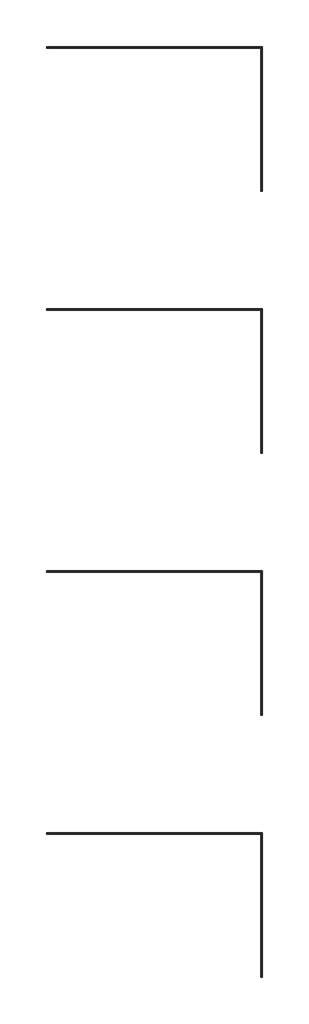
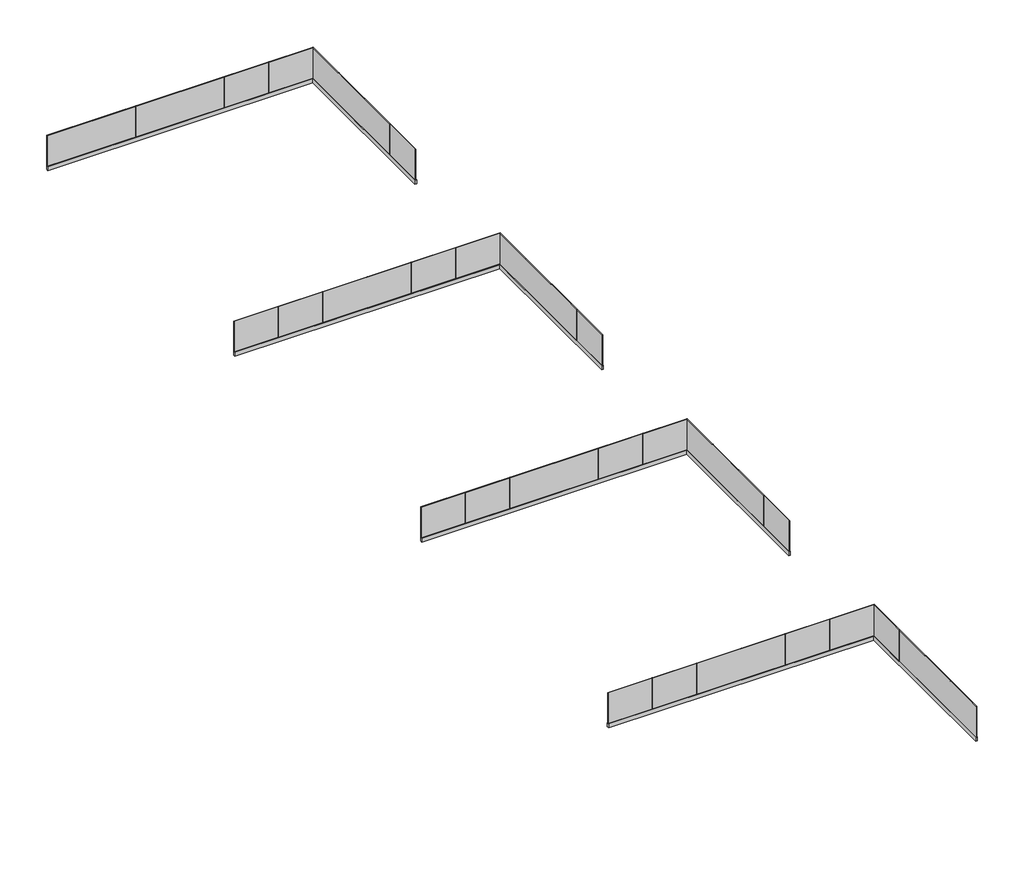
# One storey: 4 railings.
"""IFC4 building model written with IfcOpenShell, lengths in millimetres."""

import ifcopenshell
import ifcopenshell.guid

model = None  # the IFC model being written
_history = None  # IfcOwnerHistory: only IFC2X3 demands one
_inside = {}  # id of a spatial element -> (the spatial element, [elements in it])
_under = {}  # id of a project, library or spatial element -> (it, [spatial elements below it])
_declared = {}  # id of a project -> (the project, [libraries it declares])
_typed = {}  # id of a type object -> (the type object, [elements of that type])
_made_of = {}  # id of a material, layer set ... -> (it, [elements and type objects made of it])


def new_model(schema):
    """Start an empty IFC model of exactly this schema.

    Asked for "IFC4X3", IfcOpenShell would pick the latest addendum, in which some entities
    have other attributes; the version numbers below select the first issue.
    IFC2X3 requires an IfcOwnerHistory on every rooted entity: one is made here for all.
    """
    global model, _history
    if schema == "IFC4X3":
        model = ifcopenshell.file(schema_version=(4, 3, 0, 0))
    else:
        model = ifcopenshell.file(schema=schema)
    _inside.clear()
    _under.clear()
    _declared.clear()
    _typed.clear()
    _made_of.clear()
    _history = None
    if model.schema == "IFC2X3":
        org = make("IfcOrganization", Name="unknown")
        user = make(
            "IfcPersonAndOrganization",
            ThePerson=make("IfcPerson", FamilyName="unknown"),
            TheOrganization=org,
        )
        app = make(
            "IfcApplication",
            ApplicationDeveloper=org,
            Version="unknown",
            ApplicationFullName="unknown",
            ApplicationIdentifier="unknown",
        )
        _history = make(
            "IfcOwnerHistory",
            OwningUser=user,
            OwningApplication=app,
            ChangeAction="ADDED",
            CreationDate=0,
        )
    return model


def make(cls, **values):
    """One entity of the class cls with the attributes given. An attribute that is None is left unset."""
    return model.create_entity(
        cls, **{name: value for name, value in values.items() if value is not None}
    )


def rooted(cls, **values):
    """An entity with a GlobalId (a new one), such as an element, a storey or a relation."""
    return make(cls, GlobalId=ifcopenshell.guid.new(), OwnerHistory=_history, **values)


def si_unit(unit_type, name, prefix=None):
    """IfcSIUnit, for example si_unit("LENGTHUNIT", "METRE", prefix="MILLI")."""
    return make("IfcSIUnit", UnitType=unit_type, Prefix=prefix, Name=name)


def assignment(units):
    """IfcUnitAssignment: the units of a project."""
    return None if units is None else make("IfcUnitAssignment", Units=units)


def point(xyz):
    """IfcCartesianPoint."""
    return None if xyz is None else make("IfcCartesianPoint", Coordinates=xyz)


def direction(xyz):
    """IfcDirection."""
    return None if xyz is None else make("IfcDirection", DirectionRatios=xyz)


def frame(location, z_axis=None, x_axis=None):
    """IfcAxis2Placement3D, a coordinate frame: its origin and axes. An axis left out is left unset."""
    return make(
        "IfcAxis2Placement3D",
        Location=point(location),
        Axis=direction(z_axis),
        RefDirection=direction(x_axis),
    )


def origin():
    """The frame at (0, 0, 0) with its axes left unset."""
    return frame((0.0, 0.0, 0.0))


def origin_with_axes():
    """The frame at (0, 0, 0) with the z axis (0, 0, 1) and the x axis (1, 0, 0) written out."""
    return frame((0.0, 0.0, 0.0), z_axis=(0.0, 0.0, 1.0), x_axis=(1.0, 0.0, 0.0))


def place(relative_to, where):
    """IfcLocalPlacement: puts the frame where relative to a parent placement (None: the world)."""
    return make(
        "IfcLocalPlacement", PlacementRelTo=relative_to, RelativePlacement=where
    )


def context(
    kind, dimensions, precision=None, world=None, true_north=None, identifier=None
):
    """IfcGeometricRepresentationContext, for example the 3D "Model" context."""
    return make(
        "IfcGeometricRepresentationContext",
        ContextIdentifier=identifier,
        ContextType=kind,
        CoordinateSpaceDimension=dimensions,
        Precision=precision,
        WorldCoordinateSystem=world,
        TrueNorth=true_north,
    )


def project(units=None, contexts=None):
    """IfcProject with its units and contexts."""
    return rooted(
        "IfcProject",
        Name="project",
        RepresentationContexts=contexts,
        UnitsInContext=assignment(units),
    )


def spatial(cls, under=None, at=None, **own):
    """A site, building, storey or space (cls), placed at a placement, below another one or the project."""
    s = rooted(cls, ObjectPlacement=at, **own)
    if under is not None:
        _under.setdefault(under.id(), (under, []))[1].append(s)
    return s


def polyline(points):
    """IfcPolyline through the points."""
    return make("IfcPolyline", Points=[point(p) for p in points])


def outline(outer, holes=None, kind="AREA"):
    """IfcArbitraryClosedProfileDef: a profile drawn as a closed curve; with holes, ...WithVoids."""
    if holes is None:
        return make("IfcArbitraryClosedProfileDef", ProfileType=kind, OuterCurve=outer)
    return make(
        "IfcArbitraryProfileDefWithVoids",
        ProfileType=kind,
        OuterCurve=outer,
        InnerCurves=holes,
    )


def extrude(swept, where, along, depth):
    """IfcExtrudedAreaSolid: the profile swept, set in the frame where, extruded along a direction by depth."""
    return make(
        "IfcExtrudedAreaSolid",
        SweptArea=swept,
        Position=where,
        ExtrudedDirection=direction(along),
        Depth=depth,
    )


def faces_of(points, faces, orient=None, outer=None):
    """IfcFace entities. A face is a list of loops; a loop is a list of indices into points, from 0.

    orient and outer hold one flag for each loop. By default every Orientation is true, the
    first loop of a face is its IfcFaceOuterBound and the others are IfcFaceBound.
    """
    made = []
    for i, loops in enumerate(faces):
        bounds = []
        for j, loop in enumerate(loops):
            is_outer = j == 0 if outer is None else outer[i][j]
            bounds.append(
                make(
                    "IfcFaceOuterBound" if is_outer else "IfcFaceBound",
                    Bound=make("IfcPolyLoop", Polygon=[points[k] for k in loop]),
                    Orientation=True if orient is None else orient[i][j],
                )
            )
        made.append(make("IfcFace", Bounds=bounds))
    return made


def faceted_brep(points, faces, orient=None, outer=None, voids=None):
    """IfcFacetedBrep: a solid bounded by flat faces; with voids (closed shells), ...WithVoids."""
    shared = [point(p) for p in points]
    hull = make("IfcClosedShell", CfsFaces=faces_of(shared, faces, orient, outer))
    if voids is None:
        return make("IfcFacetedBrep", Outer=hull)
    return make(
        "IfcFacetedBrepWithVoids",
        Outer=hull,
        Voids=[
            make(cls, CfsFaces=faces_of(shared, fs, o, b)) for cls, fs, o, b in voids
        ],
    )


def shape(context_of_items, identifier, shape_type, items):
    """IfcShapeRepresentation: the items that make up one representation, for example the "Body"."""
    return make(
        "IfcShapeRepresentation",
        ContextOfItems=context_of_items,
        RepresentationIdentifier=identifier,
        RepresentationType=shape_type,
        Items=items,
    )


def made_of(thing, what):
    """Note that an element or type object is made of a material, layer set ...; save() writes the relation."""
    if what is not None:
        _made_of.setdefault(what.id(), (what, []))[1].append(thing)
    return thing


def element(
    cls,
    number,
    at=None,
    inside=None,
    cuts=None,
    type_object=None,
    material=None,
    context=None,
    identifier="Body",
    shape_type=None,
    held_by="IfcProductDefinitionShape",
    body=None,
    shapes=None,
    **own,
):
    """One element of the class cls, such as IfcWall. Its Tag is "e" and its number.

    at: its placement. inside: the storey or other place that contains it. cuts: it is an
    opening in that element (IfcRelVoidsElement). A single representation is given by context,
    identifier, shape_type and body (its items); several are given by shapes. held_by: the class
    of the entity that holds the representations. save() writes the other relations.
    """
    e = rooted(cls, Tag="e%d" % number, ObjectPlacement=at, **own)
    if body is not None:
        shapes = [shape(context, identifier, shape_type, body)]
    if shapes is not None:
        e.Representation = make(held_by, Representations=shapes)
    if inside is not None:
        _inside.setdefault(inside.id(), (inside, []))[1].append(e)
    if cuts is not None:
        rooted(
            "IfcRelVoidsElement", RelatingBuildingElement=cuts, RelatedOpeningElement=e
        )
    if type_object is not None:
        _typed.setdefault(type_object.id(), (type_object, []))[1].append(e)
    return made_of(e, material)


def aggregate(whole, parts):
    """IfcRelAggregates: a whole, such as a stair, and the parts it consists of."""
    return rooted("IfcRelAggregates", RelatingObject=whole, RelatedObjects=parts)


def save(model, path):
    """Write the relations noted so far, then the file.

    IfcRelAggregates (storeys below a building ...), IfcRelContainedInSpatialStructure (elements
    in a storey), IfcRelDefinesByType, IfcRelAssociatesMaterial and IfcRelDeclares: one each for
    every whole, place, type object, material and project.
    """
    for whole, parts in _under.values():
        aggregate(whole, parts)
    for where, things in _inside.values():
        rooted(
            "IfcRelContainedInSpatialStructure",
            RelatedElements=things,
            RelatingStructure=where,
        )
    for kind, things in _typed.values():
        rooted("IfcRelDefinesByType", RelatedObjects=things, RelatingType=kind)
    for what, things in _made_of.values():
        rooted("IfcRelAssociatesMaterial", RelatedObjects=things, RelatingMaterial=what)
    for by, libraries in _declared.values():
        rooted("IfcRelDeclares", RelatingContext=by, RelatedDefinitions=libraries)
    model.write(path)


model = new_model("IFC4")

# Units and contexts
model_context = context("Model", 3, world=origin())
ifc_project = project(units=[si_unit("LENGTHUNIT", "METRE", prefix="MILLI")], contexts=[model_context])

# Site, building, storey
site = spatial("IfcSite", under=ifc_project)
building = spatial("IfcBuilding", under=site)
storey = spatial("IfcBuildingStorey", under=building, Name="レベル 1", Elevation=0.0)

# Railings
placement = place(None, origin())
element("IfcRailing", 1, ObjectType="バラストレイド Proタイプ 壁付用 ガラス12mm", at=placement, inside=storey, context=model_context, shape_type="SolidModel", body=[
    faceted_brep([(-7272.0241721, 2641.437995, 1100.0), (-7272.0241721, 2641.437995, 0.0), (-7272.0241721, 2626.437995, 0.0), (-7272.0241721, 2626.437995, 1100.0), (1767.8758279, 2641.437995, 1100.0), (1767.8758279, 2641.437995, 0.0), (1752.8758279, 2626.437995, 0.0), (1752.8758279, 2626.437995, 1100.0), (1767.8758279, -3398.462005, 1100.0), (1752.8758279, -3398.462005, 1100.0), (1752.8758279, -3398.462005, 0.0), (1767.8758279, -3398.462005, 0.0)], [[[0, 1, 2, 3]], [[1, 0, 4, 5]], [[2, 1, 5, 6]], [[3, 2, 6, 7]], [[0, 3, 7, 4]], [[8, 9, 10, 11]], [[5, 4, 8, 11]], [[6, 5, 11, 10]], [[7, 6, 10, 9]], [[4, 7, 9, 8]]]),
    faceted_brep([(-7272.0241721, 2601.537995, 0.0), (-7272.0241721, 2666.337995, 0.0), (-7272.0241721, 2666.337995, -141.0), (-7272.0241721, 2601.537995, -141.0), (1727.9758279, 2601.537995, 0.0), (1792.7758279, 2666.337995, 0.0), (1792.7758279, 2666.337995, -141.0), (1727.9758279, 2601.537995, -141.0), (1727.9758279, -3398.462005, 0.0), (1727.9758279, -3398.462005, -141.0), (1792.7758279, -3398.462005, -141.0), (1792.7758279, -3398.462005, 0.0)], [[[0, 1, 2, 3]], [[1, 0, 4, 5]], [[3, 2, 6, 7]], [[0, 3, 7, 4]], [[8, 9, 10, 11]], [[5, 4, 8, 11]], [[7, 6, 10, 9]], [[4, 7, 9, 8]], [[2, 1, 5, 6]], [[6, 5, 11, 10]]]),
    extrude(outline(polyline([(1766.3758279, -1880.362005), (1766.3758279, -1900.362005), (1754.3758279, -1900.362005), (1754.3758279, -1880.362005), (1766.3758279, -1880.362005)])), origin_with_axes(), (0.0, 0.0, 1.0), 1100.0),
    extrude(outline(polyline([(1766.3758279, -372.262005), (1766.3758279, -392.262005), (1754.3758279, -392.262005), (1754.3758279, -372.262005), (1766.3758279, -372.262005)])), origin_with_axes(), (0.0, 0.0, 1.0), 1100.0),
    extrude(outline(polyline([(1766.3758279, 1135.837995), (1766.3758279, 1115.837995), (1754.3758279, 1115.837995), (1754.3758279, 1135.837995), (1766.3758279, 1135.837995)])), origin_with_axes(), (0.0, 0.0, 1.0), 1100.0),
    extrude(outline(polyline([(244.9758279, 2639.937995), (264.9758279, 2639.937995), (264.9758279, 2627.937995), (244.9758279, 2627.937995), (244.9758279, 2639.937995)])), origin_with_axes(), (0.0, 0.0, 1.0), 1100.0),
    extrude(outline(polyline([(-1260.4241721, 2639.937995), (-1240.4241721, 2639.937995), (-1240.4241721, 2627.937995), (-1260.4241721, 2627.937995), (-1260.4241721, 2639.937995)])), origin_with_axes(), (0.0, 0.0, 1.0), 1100.0),
    extrude(outline(polyline([(-2765.8241721, 2639.937995), (-2745.8241721, 2639.937995), (-2745.8241721, 2627.937995), (-2765.8241721, 2627.937995), (-2765.8241721, 2639.937995)])), origin_with_axes(), (0.0, 0.0, 1.0), 1100.0),
    extrude(outline(polyline([(-4271.2241721, 2639.937995), (-4251.2241721, 2639.937995), (-4251.2241721, 2627.937995), (-4271.2241721, 2627.937995), (-4271.2241721, 2639.937995)])), origin_with_axes(), (0.0, 0.0, 1.0), 1100.0),
    extrude(outline(polyline([(-5776.6241721, 2639.937995), (-5756.6241721, 2639.937995), (-5756.6241721, 2627.937995), (-5776.6241721, 2627.937995), (-5776.6241721, 2639.937995)])), origin_with_axes(), (0.0, 0.0, 1.0), 1100.0),
    extrude(outline(polyline([(1754.3758279, 2639.937995), (1766.3758279, 2639.937995), (1766.3758279, 2627.937995), (1754.3758279, 2627.937995), (1754.3758279, 2639.937995)])), origin_with_axes(), (0.0, 0.0, 1.0), 1100.0),
])
element("IfcRailing", 2, ObjectType="バラストレイド Proタイプ 壁付用 ガラス15mm", at=placement, inside=storey, context=model_context, shape_type="SolidModel", body=[
    faceted_brep([(-7272.0241721, -8358.562005, 1100.0), (-7272.0241721, -8358.562005, 0.0), (-7272.0241721, -8373.562005, 0.0), (-7272.0241721, -8373.562005, 1100.0), (1767.8758279, -8358.562005, 1100.0), (1767.8758279, -8358.562005, 0.0), (1752.8758279, -8373.562005, 0.0), (1752.8758279, -8373.562005, 1100.0), (1767.8758279, -14398.462005, 1100.0), (1752.8758279, -14398.462005, 1100.0), (1752.8758279, -14398.462005, 0.0), (1767.8758279, -14398.462005, 0.0)], [[[0, 1, 2, 3]], [[1, 0, 4, 5]], [[2, 1, 5, 6]], [[3, 2, 6, 7]], [[0, 3, 7, 4]], [[8, 9, 10, 11]], [[5, 4, 8, 11]], [[6, 5, 11, 10]], [[7, 6, 10, 9]], [[4, 7, 9, 8]]]),
    faceted_brep([(-7272.0241721, -8398.462005, 0.0), (-7272.0241721, -8333.662005, 0.0), (-7272.0241721, -8333.662005, -141.0), (-7272.0241721, -8398.462005, -141.0), (1727.9758279, -8398.462005, 0.0), (1792.7758279, -8333.662005, 0.0), (1792.7758279, -8333.662005, -141.0), (1727.9758279, -8398.462005, -141.0), (1727.9758279, -14398.462005, 0.0), (1727.9758279, -14398.462005, -141.0), (1792.7758279, -14398.462005, -141.0), (1792.7758279, -14398.462005, 0.0)], [[[0, 1, 2, 3]], [[1, 0, 4, 5]], [[3, 2, 6, 7]], [[0, 3, 7, 4]], [[8, 9, 10, 11]], [[5, 4, 8, 11]], [[7, 6, 10, 9]], [[4, 7, 9, 8]], [[2, 1, 5, 6]], [[6, 5, 11, 10]]]),
    extrude(outline(polyline([(1767.8758279, -12880.362005), (1767.8758279, -12900.362005), (1752.8758279, -12900.362005), (1752.8758279, -12880.362005), (1767.8758279, -12880.362005)])), origin_with_axes(), (0.0, 0.0, 1.0), 1100.0),
    extrude(outline(polyline([(1767.8758279, -11372.262005), (1767.8758279, -11392.262005), (1752.8758279, -11392.262005), (1752.8758279, -11372.262005), (1767.8758279, -11372.262005)])), origin_with_axes(), (0.0, 0.0, 1.0), 1100.0),
    extrude(outline(polyline([(1767.8758279, -9864.162005), (1767.8758279, -9884.162005), (1752.8758279, -9884.162005), (1752.8758279, -9864.162005), (1767.8758279, -9864.162005)])), origin_with_axes(), (0.0, 0.0, 1.0), 1100.0),
    extrude(outline(polyline([(244.9758279, -8358.562005), (264.9758279, -8358.562005), (264.9758279, -8373.562005), (244.9758279, -8373.562005), (244.9758279, -8358.562005)])), origin_with_axes(), (0.0, 0.0, 1.0), 1100.0),
    extrude(outline(polyline([(-1260.4241721, -8358.562005), (-1240.4241721, -8358.562005), (-1240.4241721, -8373.562005), (-1260.4241721, -8373.562005), (-1260.4241721, -8358.562005)])), origin_with_axes(), (0.0, 0.0, 1.0), 1100.0),
    extrude(outline(polyline([(-2765.8241721, -8358.562005), (-2745.8241721, -8358.562005), (-2745.8241721, -8373.562005), (-2765.8241721, -8373.562005), (-2765.8241721, -8358.562005)])), origin_with_axes(), (0.0, 0.0, 1.0), 1100.0),
    extrude(outline(polyline([(-4271.2241721, -8358.562005), (-4251.2241721, -8358.562005), (-4251.2241721, -8373.562005), (-4271.2241721, -8373.562005), (-4271.2241721, -8358.562005)])), origin_with_axes(), (0.0, 0.0, 1.0), 1100.0),
    extrude(outline(polyline([(-5776.6241721, -8358.562005), (-5756.6241721, -8358.562005), (-5756.6241721, -8373.562005), (-5776.6241721, -8373.562005), (-5776.6241721, -8358.562005)])), origin_with_axes(), (0.0, 0.0, 1.0), 1100.0),
    extrude(outline(polyline([(1752.8758279, -8358.562005), (1767.8758279, -8358.562005), (1767.8758279, -8373.562005), (1752.8758279, -8373.562005), (1752.8758279, -8358.562005)])), origin_with_axes(), (0.0, 0.0, 1.0), 1100.0),
])
element("IfcRailing", 3, ObjectType="バラストレイド Proタイプ 壁付用 ガラス8+8mm", at=placement, inside=storey, context=model_context, shape_type="SolidModel", body=[
    faceted_brep([(-7272.0241721, -19357.312005, 1100.0), (-7272.0241721, -19357.312005, 0.0), (-7272.0241721, -19374.812005, 0.0), (-7272.0241721, -19374.812005, 1100.0), (1769.1258279, -19357.312005, 1100.0), (1769.1258279, -19357.312005, 0.0), (1751.6258279, -19374.812005, 0.0), (1751.6258279, -19374.812005, 1100.0), (1769.1258279, -25398.462005, 1100.0), (1751.6258279, -25398.462005, 1100.0), (1751.6258279, -25398.462005, 0.0), (1769.1258279, -25398.462005, 0.0)], [[[0, 1, 2, 3]], [[1, 0, 4, 5]], [[2, 1, 5, 6]], [[3, 2, 6, 7]], [[0, 3, 7, 4]], [[8, 9, 10, 11]], [[5, 4, 8, 11]], [[6, 5, 11, 10]], [[7, 6, 10, 9]], [[4, 7, 9, 8]]]),
    faceted_brep([(-7272.0241721, -19398.462005, 0.0), (-7272.0241721, -19333.662005, 0.0), (-7272.0241721, -19333.662005, -141.0), (-7272.0241721, -19398.462005, -141.0), (1727.9758279, -19398.462005, 0.0), (1792.7758279, -19333.662005, 0.0), (1792.7758279, -19333.662005, -141.0), (1727.9758279, -19398.462005, -141.0), (1727.9758279, -25398.462005, 0.0), (1727.9758279, -25398.462005, -141.0), (1792.7758279, -25398.462005, -141.0), (1792.7758279, -25398.462005, 0.0)], [[[0, 1, 2, 3]], [[1, 0, 4, 5]], [[3, 2, 6, 7]], [[0, 3, 7, 4]], [[8, 9, 10, 11]], [[5, 4, 8, 11]], [[7, 6, 10, 9]], [[4, 7, 9, 8]], [[2, 1, 5, 6]], [[6, 5, 11, 10]]]),
    extrude(outline(polyline([(1769.1258279, -23880.362005), (1769.1258279, -23900.362005), (1751.6258279, -23900.362005), (1751.6258279, -23880.362005), (1769.1258279, -23880.362005)])), origin_with_axes(), (0.0, 0.0, 1.0), 1100.0),
    extrude(outline(polyline([(1769.1258279, -22372.262005), (1769.1258279, -22392.262005), (1751.6258279, -22392.262005), (1751.6258279, -22372.262005), (1769.1258279, -22372.262005)])), origin_with_axes(), (0.0, 0.0, 1.0), 1100.0),
    extrude(outline(polyline([(1769.1258279, -20864.162005), (1769.1258279, -20884.162005), (1751.6258279, -20884.162005), (1751.6258279, -20864.162005), (1769.1258279, -20864.162005)])), origin_with_axes(), (0.0, 0.0, 1.0), 1100.0),
    extrude(outline(polyline([(244.9758279, -19357.312005), (264.9758279, -19357.312005), (264.9758279, -19374.812005), (244.9758279, -19374.812005), (244.9758279, -19357.312005)])), origin_with_axes(), (0.0, 0.0, 1.0), 1100.0),
    extrude(outline(polyline([(-1260.4241721, -19357.312005), (-1240.4241721, -19357.312005), (-1240.4241721, -19374.812005), (-1260.4241721, -19374.812005), (-1260.4241721, -19357.312005)])), origin_with_axes(), (0.0, 0.0, 1.0), 1100.0),
    extrude(outline(polyline([(-2765.8241721, -19357.312005), (-2745.8241721, -19357.312005), (-2745.8241721, -19374.812005), (-2765.8241721, -19374.812005), (-2765.8241721, -19357.312005)])), origin_with_axes(), (0.0, 0.0, 1.0), 1100.0),
    extrude(outline(polyline([(-4271.2241721, -19357.312005), (-4251.2241721, -19357.312005), (-4251.2241721, -19374.812005), (-4271.2241721, -19374.812005), (-4271.2241721, -19357.312005)])), origin_with_axes(), (0.0, 0.0, 1.0), 1100.0),
    extrude(outline(polyline([(-5776.6241721, -19357.312005), (-5756.6241721, -19357.312005), (-5756.6241721, -19374.812005), (-5776.6241721, -19374.812005), (-5776.6241721, -19357.312005)])), origin_with_axes(), (0.0, 0.0, 1.0), 1100.0),
    extrude(outline(polyline([(1751.6258279, -19357.312005), (1769.1258279, -19357.312005), (1769.1258279, -19374.812005), (1751.6258279, -19374.812005), (1751.6258279, -19357.312005)])), origin_with_axes(), (0.0, 0.0, 1.0), 1100.0),
])
element("IfcRailing", 4, ObjectType="バラストレイド Proタイプ 壁付用 ガラス10+10mm", at=placement, inside=storey, context=model_context, shape_type="SolidModel", body=[
    faceted_brep([(-7272.0241721, -30355.312005, 1100.0), (-7272.0241721, -30355.312005, 0.0), (-7272.0241721, -30376.812005, 0.0), (-7272.0241721, -30376.812005, 1100.0), (1771.1258279, -30355.312005, 1100.0), (1771.1258279, -30355.312005, 0.0), (1749.6258279, -30376.812005, 0.0), (1749.6258279, -30376.812005, 1100.0), (1771.1258279, -36398.462005, 1100.0), (1749.6258279, -36398.462005, 1100.0), (1749.6258279, -36398.462005, 0.0), (1771.1258279, -36398.462005, 0.0)], [[[0, 1, 2, 3]], [[1, 0, 4, 5]], [[2, 1, 5, 6]], [[3, 2, 6, 7]], [[0, 3, 7, 4]], [[8, 9, 10, 11]], [[5, 4, 8, 11]], [[6, 5, 11, 10]], [[7, 6, 10, 9]], [[4, 7, 9, 8]]]),
    faceted_brep([(-7272.0241721, -30398.462005, 0.0), (-7272.0241721, -30333.662005, 0.0), (-7272.0241721, -30333.662005, -141.0), (-7272.0241721, -30398.462005, -141.0), (1727.9758279, -30398.462005, 0.0), (1792.7758279, -30333.662005, 0.0), (1792.7758279, -30333.662005, -141.0), (1727.9758279, -30398.462005, -141.0), (1727.9758279, -36398.462005, 0.0), (1727.9758279, -36398.462005, -141.0), (1792.7758279, -36398.462005, -141.0), (1792.7758279, -36398.462005, 0.0)], [[[0, 1, 2, 3]], [[1, 0, 4, 5]], [[3, 2, 6, 7]], [[0, 3, 7, 4]], [[8, 9, 10, 11]], [[5, 4, 8, 11]], [[7, 6, 10, 9]], [[4, 7, 9, 8]], [[2, 1, 5, 6]], [[6, 5, 11, 10]]]),
    extrude(outline(polyline([(1771.1258279, -34880.362005), (1771.1258279, -34900.362005), (1749.6258279, -34900.362005), (1749.6258279, -34880.362005), (1771.1258279, -34880.362005)])), origin_with_axes(), (0.0, 0.0, 1.0), 1100.0),
    extrude(outline(polyline([(1771.1258279, -33372.262005), (1771.1258279, -33392.262005), (1749.6258279, -33392.262005), (1749.6258279, -33372.262005), (1771.1258279, -33372.262005)])), origin_with_axes(), (0.0, 0.0, 1.0), 1100.0),
    extrude(outline(polyline([(1771.1258279, -31864.162005), (1771.1258279, -31884.162005), (1749.6258279, -31884.162005), (1749.6258279, -31864.162005), (1771.1258279, -31864.162005)])), origin_with_axes(), (0.0, 0.0, 1.0), 1100.0),
    extrude(outline(polyline([(244.9758279, -30355.312005), (264.9758279, -30355.312005), (264.9758279, -30376.812005), (244.9758279, -30376.812005), (244.9758279, -30355.312005)])), origin_with_axes(), (0.0, 0.0, 1.0), 1100.0),
    extrude(outline(polyline([(-1260.4241721, -30355.312005), (-1240.4241721, -30355.312005), (-1240.4241721, -30376.812005), (-1260.4241721, -30376.812005), (-1260.4241721, -30355.312005)])), origin_with_axes(), (0.0, 0.0, 1.0), 1100.0),
    extrude(outline(polyline([(-2765.8241721, -30355.312005), (-2745.8241721, -30355.312005), (-2745.8241721, -30376.812005), (-2765.8241721, -30376.812005), (-2765.8241721, -30355.312005)])), origin_with_axes(), (0.0, 0.0, 1.0), 1100.0),
    extrude(outline(polyline([(-4271.2241721, -30355.312005), (-4251.2241721, -30355.312005), (-4251.2241721, -30376.812005), (-4271.2241721, -30376.812005), (-4271.2241721, -30355.312005)])), origin_with_axes(), (0.0, 0.0, 1.0), 1100.0),
    extrude(outline(polyline([(-5776.6241721, -30355.312005), (-5756.6241721, -30355.312005), (-5756.6241721, -30376.812005), (-5776.6241721, -30376.812005), (-5776.6241721, -30355.312005)])), origin_with_axes(), (0.0, 0.0, 1.0), 1100.0),
    extrude(outline(polyline([(1749.6258279, -30355.312005), (1771.1258279, -30355.312005), (1771.1258279, -30376.812005), (1749.6258279, -30376.812005), (1749.6258279, -30355.312005)])), origin_with_axes(), (0.0, 0.0, 1.0), 1100.0),
])

save(model, "model.ifc")
